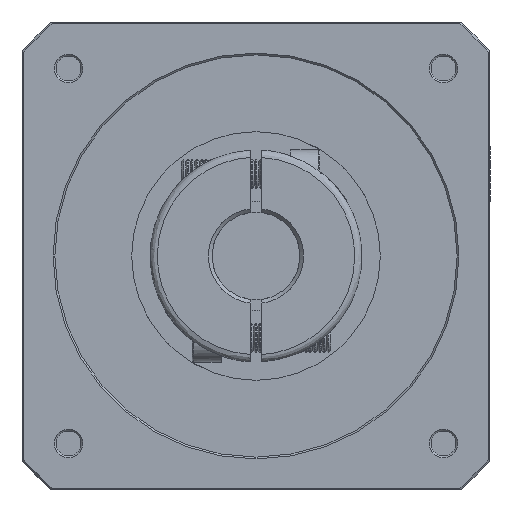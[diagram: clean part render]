
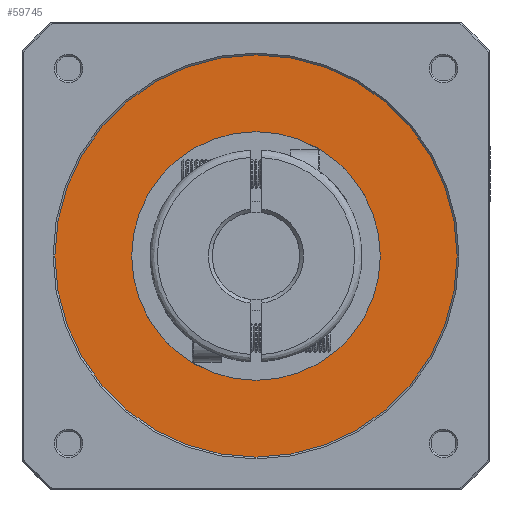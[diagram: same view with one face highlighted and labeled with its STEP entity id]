
A CAD part, front view. The second image highlights one B-rep face of the part: STEP entity #59745.
In plain terms, the highlighted planar face has unit normal (0, 1, 0).
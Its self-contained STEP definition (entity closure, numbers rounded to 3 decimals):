
#5320 = VERTEX_POINT ( 'NONE', #34185 ) ;
#6409 = PLANE ( 'NONE',  #17439 ) ;
#8071 = CIRCLE ( 'NONE', #78915, 55. ) ;
#12427 = DIRECTION ( 'NONE',  ( 0., 1., 0. ) ) ;
#13272 = ORIENTED_EDGE ( 'NONE', *, *, #26001, .T. ) ;
#14934 = EDGE_LOOP ( 'NONE', ( #13272, #39940 ) ) ;
#17230 = CARTESIAN_POINT ( 'NONE',  ( 0., -96.611, 0. ) ) ;
#17439 = AXIS2_PLACEMENT_3D ( 'NONE', #33434, #80552, #40219 ) ;
#18231 = CIRCLE ( 'NONE', #31825, 34. ) ;
#21229 = EDGE_CURVE ( 'NONE', #71657, #22035, #18231, .T. ) ;
#22035 = VERTEX_POINT ( 'NONE', #27527 ) ;
#23678 = ORIENTED_EDGE ( 'NONE', *, *, #49838, .T. ) ;
#23833 = DIRECTION ( 'NONE',  ( 0., 1., 0. ) ) ;
#23979 = DIRECTION ( 'NONE',  ( 0., 0., 1. ) ) ;
#24688 = FACE_BOUND ( 'NONE', #26772, .T. ) ;
#26001 = EDGE_CURVE ( 'NONE', #27210, #5320, #8071, .T. ) ;
#26463 = AXIS2_PLACEMENT_3D ( 'NONE', #72392, #32019, #79147 ) ;
#26772 = EDGE_LOOP ( 'NONE', ( #23678, #70399 ) ) ;
#27210 = VERTEX_POINT ( 'NONE', #58949 ) ;
#27527 = CARTESIAN_POINT ( 'NONE',  ( 0., -96.611, 34. ) ) ;
#31554 = CIRCLE ( 'NONE', #26463, 34. ) ;
#31825 = AXIS2_PLACEMENT_3D ( 'NONE', #17230, #64310, #23979 ) ;
#32019 = DIRECTION ( 'NONE',  ( 0., -1., 0. ) ) ;
#33434 = CARTESIAN_POINT ( 'NONE',  ( -55.66, -96.611, -55.66 ) ) ;
#34185 = CARTESIAN_POINT ( 'NONE',  ( 0., -96.611, 55. ) ) ;
#38302 = EDGE_CURVE ( 'NONE', #5320, #27210, #60229, .T. ) ;
#39940 = ORIENTED_EDGE ( 'NONE', *, *, #38302, .T. ) ;
#40219 = DIRECTION ( 'NONE',  ( 1., 0., 0. ) ) ;
#49838 = EDGE_CURVE ( 'NONE', #22035, #71657, #31554, .T. ) ;
#52733 = CARTESIAN_POINT ( 'NONE',  ( 0., -96.611, 0. ) ) ;
#54085 = AXIS2_PLACEMENT_3D ( 'NONE', #52733, #12427, #59464 ) ;
#58949 = CARTESIAN_POINT ( 'NONE',  ( 0., -96.611, -55. ) ) ;
#59464 = DIRECTION ( 'NONE',  ( 0., 0., -1. ) ) ;
#59745 = ADVANCED_FACE ( 'NONE', ( #24688, #76267 ), #6409, .F. ) ;
#60229 = CIRCLE ( 'NONE', #54085, 55. ) ;
#64155 = CARTESIAN_POINT ( 'NONE',  ( 0., -96.611, 0. ) ) ;
#64310 = DIRECTION ( 'NONE',  ( 0., -1., 0. ) ) ;
#70399 = ORIENTED_EDGE ( 'NONE', *, *, #21229, .T. ) ;
#70923 = DIRECTION ( 'NONE',  ( 0., 0., -1. ) ) ;
#71657 = VERTEX_POINT ( 'NONE', #72263 ) ;
#72263 = CARTESIAN_POINT ( 'NONE',  ( 0., -96.611, -34. ) ) ;
#72392 = CARTESIAN_POINT ( 'NONE',  ( 0., -96.611, 0. ) ) ;
#76267 = FACE_OUTER_BOUND ( 'NONE', #14934, .T. ) ;
#78915 = AXIS2_PLACEMENT_3D ( 'NONE', #64155, #23833, #70923 ) ;
#79147 = DIRECTION ( 'NONE',  ( 0., 0., 1. ) ) ;
#80552 = DIRECTION ( 'NONE',  ( 0., -1., 0. ) ) ;
